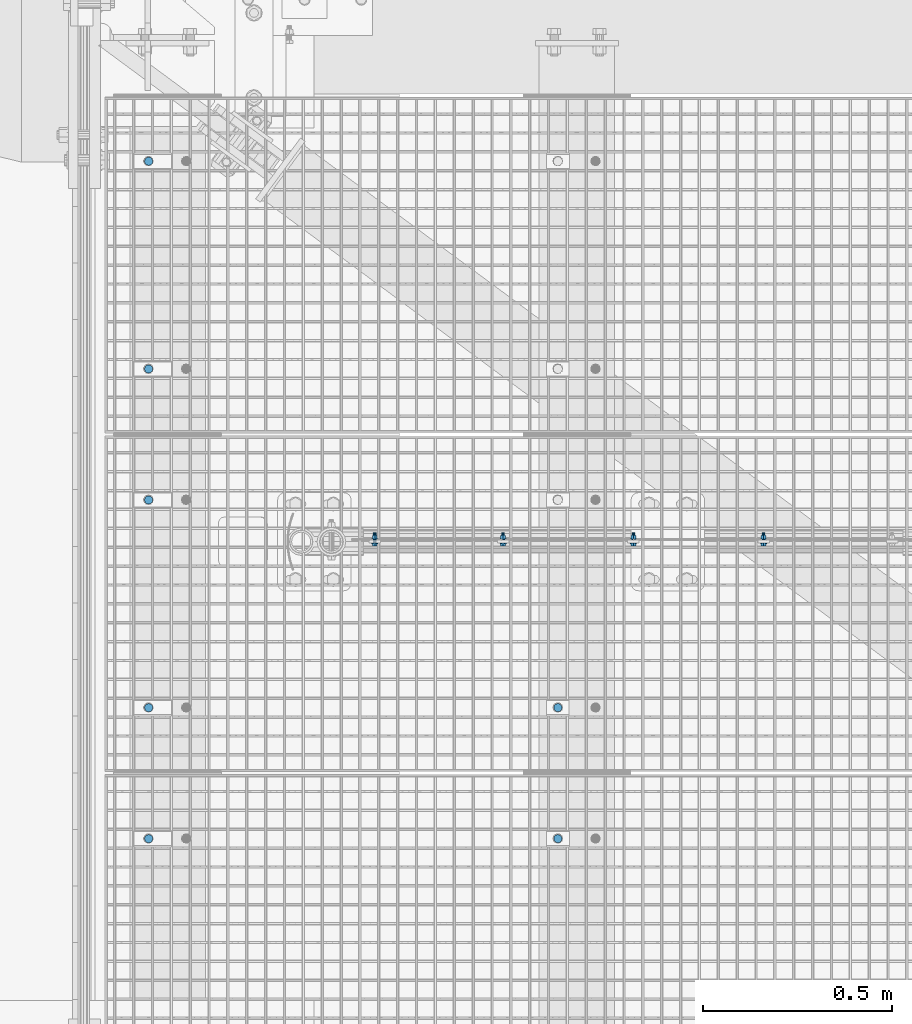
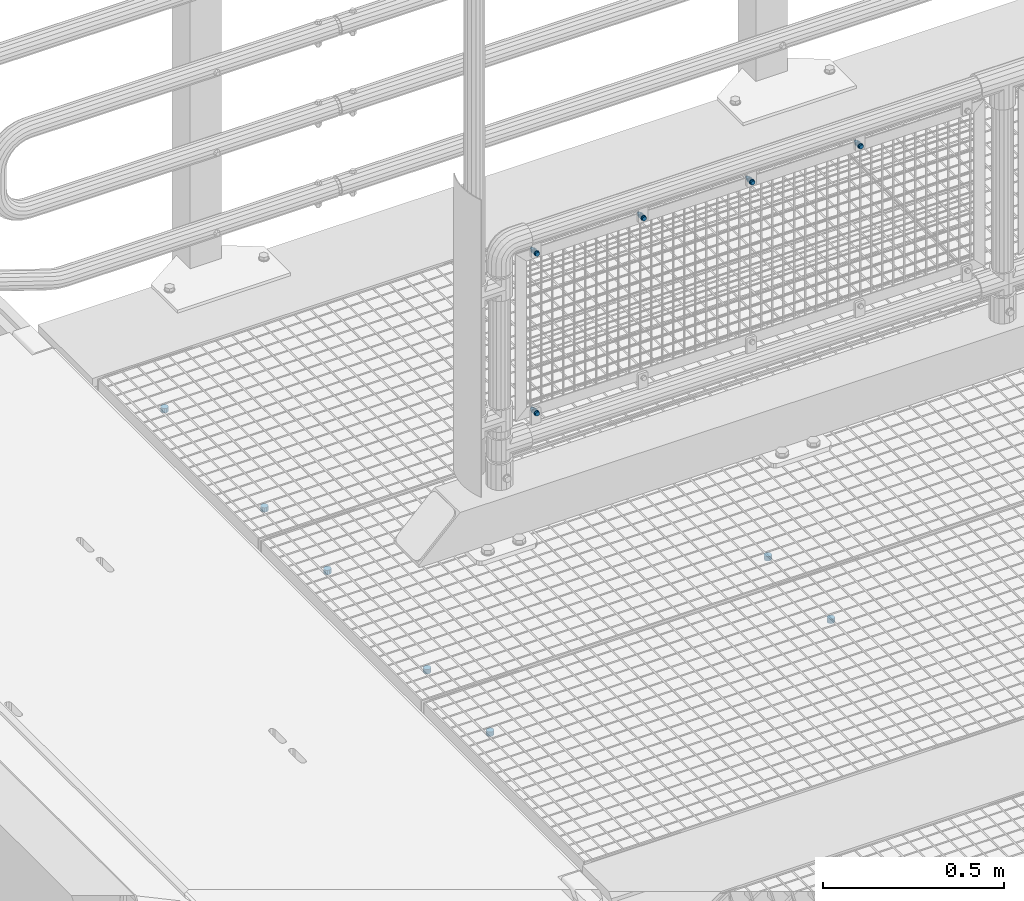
# One storey, part 70 of 1530: 12 mechanical fasteners.
"""IFC2X3 building model written with IfcOpenShell, lengths in millimetres."""

from ifc_helpers import new_model, si_unit, frame, origin_with_axes, place, context, subcontext, project, spatial, faceted_brep, source, transform, mapped, material, type_object, element, save


model = new_model("IFC2X3")

# Units and contexts
model_context = context("Model", 3, precision=1e-05, world=origin_with_axes())
body_context = subcontext(model_context, "Body", "Model", "MODEL_VIEW")
ifc_project = project(units=[si_unit("LENGTHUNIT", "METRE", prefix="MILLI"), si_unit("AREAUNIT", "SQUARE_METRE"), si_unit("VOLUMEUNIT", "CUBIC_METRE"), si_unit("MASSUNIT", "GRAM", prefix="KILO"), si_unit("TIMEUNIT", "SECOND"), si_unit("PLANEANGLEUNIT", "RADIAN"), si_unit("SOLIDANGLEUNIT", "STERADIAN"), si_unit("THERMODYNAMICTEMPERATUREUNIT", "DEGREE_CELSIUS"), si_unit("LUMINOUSINTENSITYUNIT", "LUMEN")], contexts=[model_context])

# Site, building, storey
site_placement = place(None, origin_with_axes())
site = spatial("IfcSite", under=ifc_project, at=site_placement, Name="Brattvåg", CompositionType="ELEMENT")
building_placement = place(site_placement, origin_with_axes())
building = spatial("IfcBuilding", under=site, at=building_placement, Name="Undefined", CompositionType="ELEMENT")
storey_placement = place(building_placement, origin_with_axes())
storey = spatial("IfcBuildingStorey", under=building, at=storey_placement, Name="Undefined", CompositionType="ELEMENT", Elevation=0.0)

# Mechanical fasteners
ifc_material = material(Name="8")
mechanical_fastener_type = type_object("IfcMechanicalFastenerType", Name="Bolt assembly")
shared_shape_1 = source(origin_with_axes(), body_context, "Body", "Brep", [
    faceted_brep([(11.0, -4.99999999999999, 0.0), (9.52627944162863, -4.99999999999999, 5.50000000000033), (5.49999999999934, -4.99999999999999, 9.5262794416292), (-1.13996957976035e-12, -4.99999999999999, 11.0), (-5.50000000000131, -4.99999999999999, 9.52627944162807), (-9.52627944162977, -4.99999999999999, 5.49999999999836), (-11.0, -4.99999999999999, -2.27993915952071e-12), (-9.5262794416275, -4.99999999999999, -5.5000000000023), (-5.49999999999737, -4.99999999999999, -9.52627944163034), (3.40769628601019e-12, -4.99999999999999, -11.0), (5.50000000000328, -4.99999999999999, -9.52627944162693), (9.52627944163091, -4.99999999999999, -5.49999999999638), (9.52627944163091, 10.1, -5.49999999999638), (5.50000000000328, 10.1, -9.52627944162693), (3.40769628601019e-12, 10.1, -11.0), (-5.49999999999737, 10.1, -9.52627944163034), (-9.5262794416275, 10.1, -5.5000000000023), (-11.0, 10.1, -2.27993915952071e-12), (-9.52627944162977, 10.1, 5.49999999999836), (-5.50000000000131, 10.1, 9.52627944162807), (-1.13996957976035e-12, 10.1, 11.0), (5.49999999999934, 10.1, 9.5262794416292), (9.52627944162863, 10.1, 5.50000000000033), (11.0, 10.1, 0.0)], [[[0, 1, 2, 3, 4, 5, 6, 7, 8, 9, 10, 11]], [[12, 13, 14, 15, 16, 17, 18, 19, 20, 21, 22, 23]], [[0, 23, 22, 1]], [[1, 22, 21, 2]], [[2, 21, 20, 3]], [[3, 20, 19, 4]], [[4, 19, 18, 5]], [[5, 18, 17, 6]], [[6, 17, 16, 7]], [[7, 16, 15, 8]], [[8, 15, 14, 9]], [[9, 14, 13, 10]], [[10, 13, 12, 11]], [[11, 12, 23, 0]]]),
])
for number, where, z_axis, x_axis, name in (
    (1, (137.004779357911, 8121.91931152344, -35.0), (0.0, 1.0, 0.0), (1.0, 0.0, 0.0), "Bolt assembly"),
    (2, (137.004779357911, 8671.99411010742, -35.0), (0.0, 1.0, 0.0), (1.0, 0.0, 0.0), "Bolt assembly"),
    (3, (137.004779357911, 7224.91931152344, -35.0), (0.0, 1.0, 0.0), (1.0, 0.0, 0.0), "Bolt assembly"),
    (4, (137.004779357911, 7774.99411010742, -35.0), (0.0, 1.0, 0.0), (1.0, 0.0, 0.0), "Bolt assembly"),
    (5, (1220.93192543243, 7224.99, -35.0), (0.0, -1.0, 0.0), (-1.0, 1.99999855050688e-09, 0.0), "Bolt assembly"),
    (6, (137.004779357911, 6877.99411010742, -35.0), (0.0, 1.0, 0.0), (1.0, 0.0, 0.0), "Bolt assembly"),
    (7, (1220.93456069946, 6877.99565124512, -35.0), (0.0, -1.0, 0.0), (-1.0, 1.99999855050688e-09, 0.0), "Bolt assembly"),
):
    element("IfcMechanicalFastener", number, at=place(storey_placement, frame(where, z_axis=z_axis, x_axis=x_axis)), inside=storey, type_object=mechanical_fastener_type, material=ifc_material, Name=name, NominalDiameter=20.0, NominalLength=15.0, context=body_context, shape_type="MappedRepresentation", body=[
        mapped(shared_shape_1, transform((0.0, 0.0, 0.0))),
    ])
shared_shape_2 = source(origin_with_axes(), body_context, "Body", "Brep", [
    faceted_brep([(7.50555349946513, -6.90000021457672, 0.0), (3.75277674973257, -6.90000021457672, 6.5), (-3.75277674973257, -6.90000021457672, 6.5), (-7.50555349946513, -6.90000021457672, 9.19165206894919e-16), (-3.75277674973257, -6.90000021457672, -6.5), (3.75277674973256, -6.90000021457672, -6.5), (3.75277674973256, -1.60000002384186, -6.5), (-3.75277674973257, -1.60000002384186, -6.5), (-7.50555349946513, -1.60000002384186, 9.19165206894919e-16), (-3.75277674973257, -1.60000002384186, 6.5), (3.75277674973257, -1.60000002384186, 6.5), (7.50555349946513, -1.60000002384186, 0.0), (4.0, -1.60000002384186, 0.0), (3.46410161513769, -1.60000002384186, 2.00000000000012), (1.99999999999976, -1.60000002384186, 3.46410161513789), (-4.14534392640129e-13, -1.60000002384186, 4.0), (-2.00000000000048, -1.60000002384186, 3.46410161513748), (-3.4641016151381, -1.60000002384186, 1.9999999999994), (-4.0, -1.60000002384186, -8.29068785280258e-13), (-3.46410161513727, -1.60000002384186, -2.00000000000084), (-1.99999999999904, -1.60000002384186, -3.46410161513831), (1.23916228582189e-12, -1.60000002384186, -4.0), (2.00000000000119, -1.60000002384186, -3.46410161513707), (3.46410161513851, -1.60000002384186, -1.99999999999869), (3.46410161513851, 28.3999999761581, -1.99999999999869), (2.00000000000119, 28.3999999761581, -3.46410161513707), (1.23916228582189e-12, 28.3999999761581, -4.0), (-1.99999999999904, 28.3999999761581, -3.46410161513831), (-3.46410161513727, 28.3999999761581, -2.00000000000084), (-4.0, 28.3999999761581, -8.29068785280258e-13), (-3.4641016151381, 28.3999999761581, 1.9999999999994), (-2.00000000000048, 28.3999999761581, 3.46410161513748), (-4.14534392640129e-13, 28.3999999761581, 4.0), (1.99999999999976, 28.3999999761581, 3.46410161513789), (3.46410161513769, 28.3999999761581, 2.00000000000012), (4.0, 28.3999999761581, 0.0), (8.5, -1.60000002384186, 0.0), (7.36121593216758, -1.60000002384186, 4.25000000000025), (4.24999999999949, -1.60000002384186, 7.36121593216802), (-8.80885584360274e-13, -1.60000002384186, 8.5), (-4.25000000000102, -1.60000002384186, 7.36121593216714), (-7.36121593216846, -1.60000002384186, 4.24999999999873), (-8.5, -1.60000002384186, -1.76177116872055e-12), (-7.3612159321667, -1.60000002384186, -4.25000000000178), (-4.24999999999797, -1.60000002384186, -7.3612159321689), (2.63321985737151e-12, -1.60000002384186, -8.5), (4.25000000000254, -1.60000002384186, -7.36121593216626), (7.36121593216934, -1.60000002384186, -4.24999999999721), (7.36121593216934, 0.0, -4.24999999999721), (4.25000000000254, 0.0, -7.36121593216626), (2.63321985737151e-12, 0.0, -8.5), (-4.24999999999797, 0.0, -7.3612159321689), (-7.3612159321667, 0.0, -4.25000000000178), (-8.5, 0.0, -1.76177116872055e-12), (-7.36121593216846, 0.0, 4.24999999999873), (-4.25000000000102, 0.0, 7.36121593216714), (-8.80885584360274e-13, 0.0, 8.5), (4.24999999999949, 0.0, 7.36121593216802), (7.36121593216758, 0.0, 4.25000000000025), (8.5, 0.0, 0.0), (8.5, 11.5015258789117, 0.0), (7.36121593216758, 11.5015258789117, 4.25000000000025), (4.24999999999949, 11.5015258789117, 7.36121593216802), (-8.80885584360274e-13, 11.5015258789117, 8.5), (-4.25000000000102, 11.5015258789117, 7.36121593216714), (-7.36121593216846, 11.5015258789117, 4.24999999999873), (-8.5, 11.5015258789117, -1.76177116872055e-12), (-7.3612159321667, 11.5015258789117, -4.25000000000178), (-4.24999999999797, 11.5015258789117, -7.3612159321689), (2.63321985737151e-12, 11.5015258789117, -8.5), (4.25000000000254, 11.5015258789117, -7.36121593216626), (7.36121593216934, 11.5015258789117, -4.24999999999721), (7.36121593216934, 13.1015259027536, -4.24999999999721), (4.25000000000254, 13.1015259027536, -7.36121593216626), (2.63321985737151e-12, 13.1015259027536, -8.5), (-4.24999999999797, 13.1015259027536, -7.3612159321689), (-7.3612159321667, 13.1015259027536, -4.25000000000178), (-8.5, 13.1015259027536, -1.76177116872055e-12), (-7.36121593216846, 13.1015259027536, 4.24999999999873), (-4.25000000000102, 13.1015259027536, 7.36121593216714), (-8.80885584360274e-13, 13.1015259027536, 8.5), (4.24999999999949, 13.1015259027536, 7.36121593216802), (7.36121593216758, 13.1015259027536, 4.25000000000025), (8.5, 13.1015259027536, 0.0), (7.50555349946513, 13.1015259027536, 0.0), (3.75277674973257, 13.1015259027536, 6.5), (-3.75277674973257, 13.1015259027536, 6.5), (-7.50555349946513, 13.1015259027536, 9.19165206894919e-16), (-3.75277674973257, 13.1015259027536, -6.5), (3.75277674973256, 13.1015259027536, -6.5), (3.75277674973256, 19.9015260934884, -6.5), (-3.75277674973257, 19.9015260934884, -6.5), (-7.50555349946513, 19.9015260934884, 9.19165206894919e-16), (-3.75277674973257, 19.9015260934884, 6.5), (3.75277674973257, 19.9015260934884, 6.5), (7.50555349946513, 19.9015260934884, 0.0)], [[[0, 1, 2, 3, 4, 5]], [[6, 7, 8, 9, 10, 11]], [[0, 11, 10, 1]], [[1, 10, 9, 2]], [[2, 9, 8, 3]], [[3, 8, 7, 4]], [[4, 7, 6, 5]], [[5, 6, 11, 0]], [[12, 13, 14, 15, 16, 17, 18, 19, 20, 21, 22, 23]], [[24, 25, 26, 27, 28, 29, 30, 31, 32, 33, 34, 35]], [[12, 35, 34, 13]], [[13, 34, 33, 14]], [[14, 33, 32, 15]], [[15, 32, 31, 16]], [[16, 31, 30, 17]], [[17, 30, 29, 18]], [[18, 29, 28, 19]], [[19, 28, 27, 20]], [[20, 27, 26, 21]], [[21, 26, 25, 22]], [[22, 25, 24, 23]], [[23, 24, 35, 12]], [[36, 37, 38, 39, 40, 41, 42, 43, 44, 45, 46, 47]], [[48, 49, 50, 51, 52, 53, 54, 55, 56, 57, 58, 59]], [[36, 59, 58, 37]], [[37, 58, 57, 38]], [[38, 57, 56, 39]], [[39, 56, 55, 40]], [[40, 55, 54, 41]], [[41, 54, 53, 42]], [[42, 53, 52, 43]], [[43, 52, 51, 44]], [[44, 51, 50, 45]], [[45, 50, 49, 46]], [[46, 49, 48, 47]], [[47, 48, 59, 36]], [[60, 61, 62, 63, 64, 65, 66, 67, 68, 69, 70, 71]], [[72, 73, 74, 75, 76, 77, 78, 79, 80, 81, 82, 83]], [[60, 83, 82, 61]], [[61, 82, 81, 62]], [[62, 81, 80, 63]], [[63, 80, 79, 64]], [[64, 79, 78, 65]], [[65, 78, 77, 66]], [[66, 77, 76, 67]], [[67, 76, 75, 68]], [[68, 75, 74, 69]], [[69, 74, 73, 70]], [[70, 73, 72, 71]], [[71, 72, 83, 60]], [[84, 85, 86, 87, 88, 89]], [[90, 91, 92, 93, 94, 95]], [[84, 95, 94, 85]], [[85, 94, 93, 86]], [[86, 93, 92, 87]], [[87, 92, 91, 88]], [[88, 91, 90, 89]], [[89, 90, 95, 84]]]),
    faceted_brep([(5.0, 0.1, 0.0), (4.33012701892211, 0.1, 2.50000000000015), (2.4999999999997, 0.1, 4.33012701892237), (-5.18167990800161e-13, 0.1, 5.0), (-2.5000000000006, 0.1, 4.33012701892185), (-4.33012701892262, 0.1, 2.49999999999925), (-5.0, 0.1, -1.03633598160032e-12), (-4.33012701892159, 0.1, -2.50000000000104), (-2.49999999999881, 0.1, -4.33012701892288), (1.54895285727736e-12, 0.1, -5.0), (2.50000000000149, 0.1, -4.33012701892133), (4.33012701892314, 0.1, -2.49999999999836), (4.33012701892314, 8.1, -2.49999999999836), (2.50000000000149, 8.1, -4.33012701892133), (1.54895285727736e-12, 8.1, -5.0), (-2.49999999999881, 8.1, -4.33012701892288), (-4.33012701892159, 8.1, -2.50000000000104), (-5.0, 8.1, -1.03633598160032e-12), (-4.33012701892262, 8.1, 2.49999999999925), (-2.5000000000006, 8.1, 4.33012701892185), (-5.18167990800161e-13, 8.1, 5.0), (2.4999999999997, 8.1, 4.33012701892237), (4.33012701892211, 8.1, 2.50000000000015), (5.0, 8.1, 0.0), (5.0, 8.40152587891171, 0.0), (4.33012701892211, 8.40152587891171, 2.50000000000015), (2.4999999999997, 8.40152587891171, 4.33012701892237), (-5.18167990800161e-13, 8.40152587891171, 5.0), (-2.5000000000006, 8.40152587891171, 4.33012701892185), (-4.33012701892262, 8.40152587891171, 2.49999999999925), (-5.0, 8.40152587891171, -1.03633598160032e-12), (-4.33012701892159, 8.40152587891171, -2.50000000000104), (-2.49999999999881, 8.40152587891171, -4.33012701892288), (1.54895285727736e-12, 8.40152587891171, -5.0), (2.50000000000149, 8.40152587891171, -4.33012701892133), (4.33012701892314, 8.40152587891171, -2.49999999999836), (4.33012701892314, 11.5015258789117, -2.49999999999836), (2.50000000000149, 11.5015258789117, -4.33012701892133), (1.54895285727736e-12, 11.5015258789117, -5.0), (-2.49999999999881, 11.5015258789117, -4.33012701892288), (-4.33012701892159, 11.5015258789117, -2.50000000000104), (-5.0, 11.5015258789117, -1.03633598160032e-12), (-4.33012701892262, 11.5015258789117, 2.49999999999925), (-2.5000000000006, 11.5015258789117, 4.33012701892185), (-5.18167990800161e-13, 11.5015258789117, 5.0), (2.4999999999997, 11.5015258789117, 4.33012701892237), (4.33012701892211, 11.5015258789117, 2.50000000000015), (5.0, 11.5015258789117, 0.0)], [[[0, 1, 2, 3, 4, 5, 6, 7, 8, 9, 10, 11]], [[12, 13, 14, 15, 16, 17, 18, 19, 20, 21, 22, 23]], [[0, 23, 22, 1]], [[1, 22, 21, 2]], [[2, 21, 20, 3]], [[3, 20, 19, 4]], [[4, 19, 18, 5]], [[5, 18, 17, 6]], [[6, 17, 16, 7]], [[7, 16, 15, 8]], [[8, 15, 14, 9]], [[9, 14, 13, 10]], [[10, 13, 12, 11]], [[11, 12, 23, 0]], [[24, 25, 26, 27, 28, 29, 30, 31, 32, 33, 34, 35]], [[36, 37, 38, 39, 40, 41, 42, 43, 44, 45, 46, 47]], [[24, 47, 46, 25]], [[25, 46, 45, 26]], [[26, 45, 44, 27]], [[27, 44, 43, 28]], [[28, 43, 42, 29]], [[29, 42, 41, 30]], [[30, 41, 40, 31]], [[31, 40, 39, 32]], [[32, 39, 38, 33]], [[33, 38, 37, 34]], [[34, 37, 36, 35]], [[35, 36, 47, 24]]]),
])
for number, where, z_axis, x_axis, name in (
    (8, (735.850952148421, 7660.49950027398, 889.680069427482), (-1.0, 1.99999855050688e-09, 0.0), (0.0, 0.0, 1.0), "Bolt assembly"),
    (9, (1075.85110473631, 7660.49950027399, 889.680069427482), (-1.0, 1.99999855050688e-09, 0.0), (0.0, 0.0, 1.0), "Bolt assembly"),
    (10, (1420.8504180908, 7660.49950027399, 889.680069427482), (-1.0, 1.99999855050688e-09, 0.0), (0.0, 0.0, 1.0), "Bolt assembly"),
    (11, (1765.85163879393, 7660.49950027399, 889.680069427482), (-1.0, 1.99999855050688e-09, 0.0), (0.0, 0.0, 1.0), "Bolt assembly"),
):
    element("IfcMechanicalFastener", number, at=place(storey_placement, frame(where, z_axis=z_axis, x_axis=x_axis)), inside=storey, type_object=mechanical_fastener_type, material=ifc_material, Name=name, NominalDiameter=8.0, NominalLength=30.0, context=body_context, shape_type="MappedRepresentation", body=[
        mapped(shared_shape_2, transform((0.0, 0.0, 0.0))),
    ])
shared_shape_3 = source(origin_with_axes(), body_context, "Body", "Brep", [
    faceted_brep([(7.50555349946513, -6.899000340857, 0.0), (3.75277674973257, -6.899000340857, 6.5), (-3.75277674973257, -6.899000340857, 6.5), (-7.50555349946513, -6.899000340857, 9.19165206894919e-16), (-3.75277674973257, -6.899000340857, -6.5), (3.75277674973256, -6.899000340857, -6.5), (3.75277674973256, -1.59900015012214, -6.5), (-3.75277674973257, -1.59900015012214, -6.5), (-7.50555349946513, -1.59900015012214, 9.19165206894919e-16), (-3.75277674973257, -1.59900015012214, 6.5), (3.75277674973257, -1.59900015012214, 6.5), (7.50555349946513, -1.59900015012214, 0.0), (4.0, -1.59900015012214, 0.0), (3.46410161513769, -1.59900015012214, 2.00000000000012), (1.99999999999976, -1.59900015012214, 3.46410161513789), (-4.14534392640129e-13, -1.59900015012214, 4.0), (-2.00000000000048, -1.59900015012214, 3.46410161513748), (-3.4641016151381, -1.59900015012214, 1.9999999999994), (-4.0, -1.59900015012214, -8.29068785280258e-13), (-3.46410161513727, -1.59900015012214, -2.00000000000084), (-1.99999999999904, -1.59900015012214, -3.46410161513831), (1.23916228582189e-12, -1.59900015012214, -4.0), (2.00000000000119, -1.59900015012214, -3.46410161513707), (3.46410161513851, -1.59900015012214, -1.99999999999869), (3.46410161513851, 28.4009998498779, -1.99999999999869), (2.00000000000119, 28.4009998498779, -3.46410161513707), (1.23916228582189e-12, 28.4009998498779, -4.0), (-1.99999999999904, 28.4009998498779, -3.46410161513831), (-3.46410161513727, 28.4009998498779, -2.00000000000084), (-4.0, 28.4009998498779, -8.29068785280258e-13), (-3.4641016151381, 28.4009998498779, 1.9999999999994), (-2.00000000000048, 28.4009998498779, 3.46410161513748), (-4.14534392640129e-13, 28.4009998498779, 4.0), (1.99999999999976, 28.4009998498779, 3.46410161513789), (3.46410161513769, 28.4009998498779, 2.00000000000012), (4.0, 28.4009998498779, 0.0), (8.5, -1.59900015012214, 0.0), (7.36121593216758, -1.59900015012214, 4.25000000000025), (4.24999999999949, -1.59900015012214, 7.36121593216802), (-8.80885584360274e-13, -1.59900015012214, 8.5), (-4.25000000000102, -1.59900015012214, 7.36121593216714), (-7.36121593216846, -1.59900015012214, 4.24999999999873), (-8.5, -1.59900015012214, -1.76177116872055e-12), (-7.3612159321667, -1.59900015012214, -4.25000000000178), (-4.24999999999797, -1.59900015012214, -7.3612159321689), (2.63321985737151e-12, -1.59900015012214, -8.5), (4.25000000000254, -1.59900015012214, -7.36121593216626), (7.36121593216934, -1.59900015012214, -4.24999999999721), (7.36121593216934, 0.000999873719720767, -4.24999999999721), (4.25000000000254, 0.000999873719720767, -7.36121593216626), (2.63321985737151e-12, 0.000999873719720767, -8.5), (-4.24999999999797, 0.000999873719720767, -7.3612159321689), (-7.3612159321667, 0.000999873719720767, -4.25000000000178), (-8.5, 0.000999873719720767, -1.76177116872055e-12), (-7.36121593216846, 0.000999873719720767, 4.24999999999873), (-4.25000000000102, 0.000999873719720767, 7.36121593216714), (-8.80885584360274e-13, 0.000999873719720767, 8.5), (4.24999999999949, 0.000999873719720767, 7.36121593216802), (7.36121593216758, 0.000999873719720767, 4.25000000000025), (8.5, 0.000999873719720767, 0.0), (8.5, 11.5044159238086, 0.0), (7.36121593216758, 11.5044159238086, 4.25000000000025), (4.24999999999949, 11.5044159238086, 7.36121593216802), (-8.80885584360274e-13, 11.5044159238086, 8.5), (-4.25000000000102, 11.5044159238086, 7.36121593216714), (-7.36121593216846, 11.5044159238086, 4.24999999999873), (-8.5, 11.5044159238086, -1.76177116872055e-12), (-7.3612159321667, 11.5044159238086, -4.25000000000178), (-4.24999999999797, 11.5044159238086, -7.3612159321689), (2.63321985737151e-12, 11.5044159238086, -8.5), (4.25000000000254, 11.5044159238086, -7.36121593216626), (7.36121593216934, 11.5044159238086, -4.24999999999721), (7.36121593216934, 13.1044159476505, -4.24999999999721), (4.25000000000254, 13.1044159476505, -7.36121593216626), (2.63321985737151e-12, 13.1044159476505, -8.5), (-4.24999999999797, 13.1044159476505, -7.3612159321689), (-7.3612159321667, 13.1044159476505, -4.25000000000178), (-8.5, 13.1044159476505, -1.76177116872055e-12), (-7.36121593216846, 13.1044159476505, 4.24999999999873), (-4.25000000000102, 13.1044159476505, 7.36121593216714), (-8.80885584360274e-13, 13.1044159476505, 8.5), (4.24999999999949, 13.1044159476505, 7.36121593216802), (7.36121593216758, 13.1044159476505, 4.25000000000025), (8.5, 13.1044159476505, 0.0), (7.50555349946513, 13.1044159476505, 0.0), (3.75277674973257, 13.1044159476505, 6.5), (-3.75277674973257, 13.1044159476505, 6.5), (-7.50555349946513, 13.1044159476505, 9.19165206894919e-16), (-3.75277674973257, 13.1044159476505, -6.5), (3.75277674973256, 13.1044159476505, -6.5), (3.75277674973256, 19.9044161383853, -6.5), (-3.75277674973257, 19.9044161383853, -6.5), (-7.50555349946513, 19.9044161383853, 9.19165206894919e-16), (-3.75277674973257, 19.9044161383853, 6.5), (3.75277674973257, 19.9044161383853, 6.5), (7.50555349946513, 19.9044161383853, 0.0)], [[[0, 1, 2, 3, 4, 5]], [[6, 7, 8, 9, 10, 11]], [[0, 11, 10, 1]], [[1, 10, 9, 2]], [[2, 9, 8, 3]], [[3, 8, 7, 4]], [[4, 7, 6, 5]], [[5, 6, 11, 0]], [[12, 13, 14, 15, 16, 17, 18, 19, 20, 21, 22, 23]], [[24, 25, 26, 27, 28, 29, 30, 31, 32, 33, 34, 35]], [[12, 35, 34, 13]], [[13, 34, 33, 14]], [[14, 33, 32, 15]], [[15, 32, 31, 16]], [[16, 31, 30, 17]], [[17, 30, 29, 18]], [[18, 29, 28, 19]], [[19, 28, 27, 20]], [[20, 27, 26, 21]], [[21, 26, 25, 22]], [[22, 25, 24, 23]], [[23, 24, 35, 12]], [[36, 37, 38, 39, 40, 41, 42, 43, 44, 45, 46, 47]], [[48, 49, 50, 51, 52, 53, 54, 55, 56, 57, 58, 59]], [[36, 59, 58, 37]], [[37, 58, 57, 38]], [[38, 57, 56, 39]], [[39, 56, 55, 40]], [[40, 55, 54, 41]], [[41, 54, 53, 42]], [[42, 53, 52, 43]], [[43, 52, 51, 44]], [[44, 51, 50, 45]], [[45, 50, 49, 46]], [[46, 49, 48, 47]], [[47, 48, 59, 36]], [[60, 61, 62, 63, 64, 65, 66, 67, 68, 69, 70, 71]], [[72, 73, 74, 75, 76, 77, 78, 79, 80, 81, 82, 83]], [[60, 83, 82, 61]], [[61, 82, 81, 62]], [[62, 81, 80, 63]], [[63, 80, 79, 64]], [[64, 79, 78, 65]], [[65, 78, 77, 66]], [[66, 77, 76, 67]], [[67, 76, 75, 68]], [[68, 75, 74, 69]], [[69, 74, 73, 70]], [[70, 73, 72, 71]], [[71, 72, 83, 60]], [[84, 85, 86, 87, 88, 89]], [[90, 91, 92, 93, 94, 95]], [[84, 95, 94, 85]], [[85, 94, 93, 86]], [[86, 93, 92, 87]], [[87, 92, 91, 88]], [[88, 91, 90, 89]], [[89, 90, 95, 84]]]),
    faceted_brep([(5.0, 0.100999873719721, 0.0), (4.33012701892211, 0.100999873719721, 2.50000000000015), (2.4999999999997, 0.100999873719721, 4.33012701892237), (-5.18167990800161e-13, 0.100999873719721, 5.0), (-2.5000000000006, 0.100999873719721, 4.33012701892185), (-4.33012701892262, 0.100999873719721, 2.49999999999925), (-5.0, 0.100999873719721, -1.03633598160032e-12), (-4.33012701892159, 0.100999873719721, -2.50000000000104), (-2.49999999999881, 0.100999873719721, -4.33012701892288), (1.54895285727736e-12, 0.100999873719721, -5.0), (2.50000000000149, 0.100999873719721, -4.33012701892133), (4.33012701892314, 0.100999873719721, -2.49999999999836), (4.33012701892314, 8.10099988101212, -2.49999999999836), (2.50000000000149, 8.10099988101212, -4.33012701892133), (1.54895285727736e-12, 8.10099988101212, -5.0), (-2.49999999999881, 8.10099988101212, -4.33012701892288), (-4.33012701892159, 8.10099988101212, -2.50000000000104), (-5.0, 8.10099988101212, -1.03633598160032e-12), (-4.33012701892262, 8.10099988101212, 2.49999999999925), (-2.5000000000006, 8.10099988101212, 4.33012701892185), (-5.18167990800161e-13, 8.10099988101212, 5.0), (2.4999999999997, 8.10099988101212, 4.33012701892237), (4.33012701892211, 8.10099988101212, 2.50000000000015), (5.0, 8.10099988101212, 0.0), (5.0, 8.40441592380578, 0.0), (4.33012701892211, 8.40441592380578, 2.50000000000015), (2.4999999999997, 8.40441592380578, 4.33012701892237), (-5.18167990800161e-13, 8.40441592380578, 5.0), (-2.5000000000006, 8.40441592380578, 4.33012701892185), (-4.33012701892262, 8.40441592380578, 2.49999999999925), (-5.0, 8.40441592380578, -1.03633598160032e-12), (-4.33012701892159, 8.40441592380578, -2.50000000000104), (-2.49999999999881, 8.40441592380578, -4.33012701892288), (1.54895285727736e-12, 8.40441592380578, -5.0), (2.50000000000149, 8.40441592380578, -4.33012701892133), (4.33012701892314, 8.40441592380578, -2.49999999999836), (4.33012701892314, 11.5044159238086, -2.49999999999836), (2.50000000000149, 11.5044159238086, -4.33012701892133), (1.54895285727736e-12, 11.5044159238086, -5.0), (-2.49999999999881, 11.5044159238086, -4.33012701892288), (-4.33012701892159, 11.5044159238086, -2.50000000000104), (-5.0, 11.5044159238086, -1.03633598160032e-12), (-4.33012701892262, 11.5044159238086, 2.49999999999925), (-2.5000000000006, 11.5044159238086, 4.33012701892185), (-5.18167990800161e-13, 11.5044159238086, 5.0), (2.4999999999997, 11.5044159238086, 4.33012701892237), (4.33012701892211, 11.5044159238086, 2.50000000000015), (5.0, 11.5044159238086, 0.0)], [[[0, 1, 2, 3, 4, 5, 6, 7, 8, 9, 10, 11]], [[12, 13, 14, 15, 16, 17, 18, 19, 20, 21, 22, 23]], [[0, 23, 22, 1]], [[1, 22, 21, 2]], [[2, 21, 20, 3]], [[3, 20, 19, 4]], [[4, 19, 18, 5]], [[5, 18, 17, 6]], [[6, 17, 16, 7]], [[7, 16, 15, 8]], [[8, 15, 14, 9]], [[9, 14, 13, 10]], [[10, 13, 12, 11]], [[11, 12, 23, 0]], [[24, 25, 26, 27, 28, 29, 30, 31, 32, 33, 34, 35]], [[36, 37, 38, 39, 40, 41, 42, 43, 44, 45, 46, 47]], [[24, 47, 46, 25]], [[25, 46, 45, 26]], [[26, 45, 44, 27]], [[27, 44, 43, 28]], [[28, 43, 42, 29]], [[29, 42, 41, 30]], [[30, 41, 40, 31]], [[31, 40, 39, 32]], [[32, 39, 38, 33]], [[33, 38, 37, 34]], [[34, 37, 36, 35]], [[35, 36, 47, 24]]]),
])
mechanical_fastener_placement = place(storey_placement, frame((735.850608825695, 7660.49843978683, 352.299672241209), z_axis=(-1.0, 1.99999855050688e-09, 0.0), x_axis=(0.0, 0.0, 1.0)))
element("IfcMechanicalFastener", 12, at=mechanical_fastener_placement, inside=storey, type_object=mechanical_fastener_type, material=ifc_material, Name="Bolt assembly", NominalDiameter=8.0, NominalLength=30.0, context=body_context, shape_type="MappedRepresentation", body=[
    mapped(shared_shape_3, transform((0.0, 0.0, 0.0))),
])

save(model, "model.ifc")
